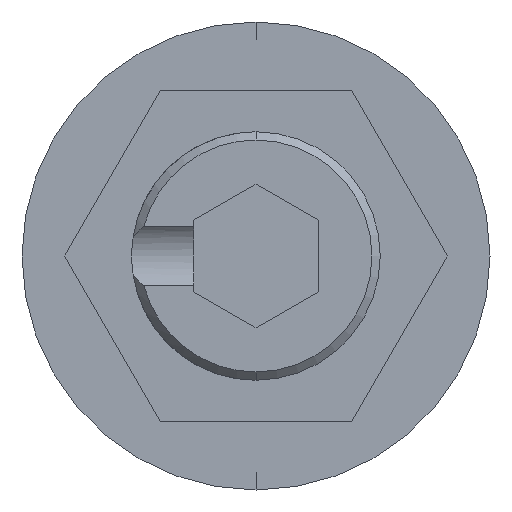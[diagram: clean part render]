
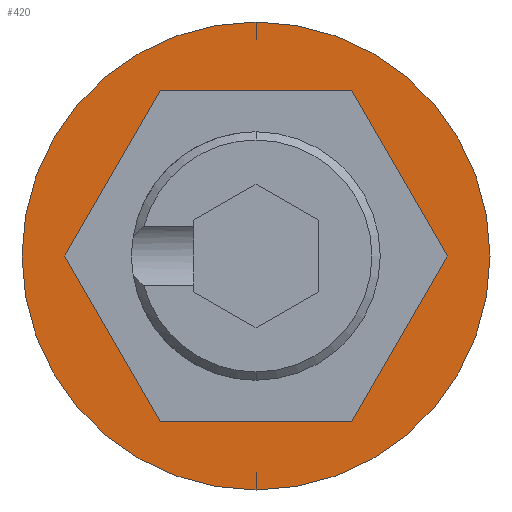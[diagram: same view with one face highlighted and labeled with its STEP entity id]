
A CAD part, front view. The second image highlights one B-rep face of the part: STEP entity #420.
In plain terms, the highlighted planar face has unit normal (0, -1, 0).
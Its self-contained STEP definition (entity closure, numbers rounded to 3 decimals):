
#25 = ORIENTED_EDGE ( 'NONE', *, *, #242, .F. ) ;
#86 = EDGE_CURVE ( 'NONE', #1784, #515, #1893, .T. ) ;
#128 = CARTESIAN_POINT ( 'NONE',  ( -2.309, 0., -4. ) ) ;
#140 = VECTOR ( 'NONE', #1508, 1000. ) ;
#199 = DIRECTION ( 'NONE',  ( 0., -1., 0. ) ) ;
#208 = VERTEX_POINT ( 'NONE', #1943 ) ;
#210 = LINE ( 'NONE', #780, #1839 ) ;
#242 = EDGE_CURVE ( 'NONE', #208, #630, #1299, .T. ) ;
#244 = VECTOR ( 'NONE', #1152, 1000. ) ;
#251 = LINE ( 'NONE', #1096, #140 ) ;
#255 = ORIENTED_EDGE ( 'NONE', *, *, #534, .T. ) ;
#334 = FACE_OUTER_BOUND ( 'NONE', #1014, .T. ) ;
#420 = ADVANCED_FACE ( 'NONE', ( #887, #334 ), #545, .T. ) ;
#426 = LINE ( 'NONE', #876, #244 ) ;
#458 = VERTEX_POINT ( 'NONE', #1995 ) ;
#496 = CIRCLE ( 'NONE', #1996, 5.65 ) ;
#508 = VECTOR ( 'NONE', #1960, 1000. ) ;
#515 = VERTEX_POINT ( 'NONE', #1178 ) ;
#524 = DIRECTION ( 'NONE',  ( 0., -1., 0. ) ) ;
#531 = VECTOR ( 'NONE', #2021, 1000. ) ;
#534 = EDGE_CURVE ( 'NONE', #458, #994, #2005, .T. ) ;
#545 = PLANE ( 'NONE',  #1561 ) ;
#576 = VERTEX_POINT ( 'NONE', #1624 ) ;
#630 = VERTEX_POINT ( 'NONE', #2096 ) ;
#669 = EDGE_CURVE ( 'NONE', #994, #458, #496, .T. ) ;
#675 = DIRECTION ( 'NONE',  ( -0.5, 0., -0.866 ) ) ;
#689 = VECTOR ( 'NONE', #675, 1000. ) ;
#780 = CARTESIAN_POINT ( 'NONE',  ( 2.309, 0., 4. ) ) ;
#787 = VERTEX_POINT ( 'NONE', #128 ) ;
#803 = EDGE_CURVE ( 'NONE', #787, #576, #251, .T. ) ;
#806 = ORIENTED_EDGE ( 'NONE', *, *, #1423, .F. ) ;
#815 = CARTESIAN_POINT ( 'NONE',  ( 0., 0., 0. ) ) ;
#822 = DIRECTION ( 'NONE',  ( 0., -1., 0. ) ) ;
#873 = CARTESIAN_POINT ( 'NONE',  ( -2.309, 0., 4. ) ) ;
#876 = CARTESIAN_POINT ( 'NONE',  ( -4.619, 0., 0. ) ) ;
#887 = FACE_BOUND ( 'NONE', #1134, .T. ) ;
#888 = CARTESIAN_POINT ( 'NONE',  ( -2.309, 0., 4. ) ) ;
#890 = CARTESIAN_POINT ( 'NONE',  ( 2.309, 0., -4. ) ) ;
#941 = DIRECTION ( 'NONE',  ( -1., 0., 0. ) ) ;
#989 = ORIENTED_EDGE ( 'NONE', *, *, #1763, .F. ) ;
#994 = VERTEX_POINT ( 'NONE', #1449 ) ;
#1014 = EDGE_LOOP ( 'NONE', ( #1708, #255 ) ) ;
#1047 = DIRECTION ( 'NONE',  ( 0., 0., -1. ) ) ;
#1096 = CARTESIAN_POINT ( 'NONE',  ( -2.309, 0., -4. ) ) ;
#1124 = EDGE_CURVE ( 'NONE', #630, #1784, #210, .T. ) ;
#1134 = EDGE_LOOP ( 'NONE', ( #1753, #806, #1533, #1968, #25, #989 ) ) ;
#1151 = LINE ( 'NONE', #890, #531 ) ;
#1152 = DIRECTION ( 'NONE',  ( 0.5, 0., -0.866 ) ) ;
#1178 = CARTESIAN_POINT ( 'NONE',  ( -4.619, 0., 0. ) ) ;
#1197 = CARTESIAN_POINT ( 'NONE',  ( 0., 0., 0. ) ) ;
#1299 = LINE ( 'NONE', #1905, #508 ) ;
#1423 = EDGE_CURVE ( 'NONE', #515, #787, #426, .T. ) ;
#1449 = CARTESIAN_POINT ( 'NONE',  ( 0., 0., -5.65 ) ) ;
#1508 = DIRECTION ( 'NONE',  ( 1., 0., 0. ) ) ;
#1510 = CARTESIAN_POINT ( 'NONE',  ( 0., 0., 0. ) ) ;
#1533 = ORIENTED_EDGE ( 'NONE', *, *, #86, .F. ) ;
#1561 = AXIS2_PLACEMENT_3D ( 'NONE', #1510, #199, #1047 ) ;
#1624 = CARTESIAN_POINT ( 'NONE',  ( 2.309, 0., -4. ) ) ;
#1704 = AXIS2_PLACEMENT_3D ( 'NONE', #815, #822, #1948 ) ;
#1708 = ORIENTED_EDGE ( 'NONE', *, *, #669, .T. ) ;
#1753 = ORIENTED_EDGE ( 'NONE', *, *, #803, .F. ) ;
#1763 = EDGE_CURVE ( 'NONE', #576, #208, #1151, .T. ) ;
#1784 = VERTEX_POINT ( 'NONE', #888 ) ;
#1839 = VECTOR ( 'NONE', #941, 1000. ) ;
#1893 = LINE ( 'NONE', #873, #689 ) ;
#1905 = CARTESIAN_POINT ( 'NONE',  ( 4.619, 0., 0. ) ) ;
#1943 = CARTESIAN_POINT ( 'NONE',  ( 4.619, 0., 0. ) ) ;
#1948 = DIRECTION ( 'NONE',  ( 0., 0., -1. ) ) ;
#1960 = DIRECTION ( 'NONE',  ( -0.5, 0., 0.866 ) ) ;
#1968 = ORIENTED_EDGE ( 'NONE', *, *, #1124, .F. ) ;
#1986 = DIRECTION ( 'NONE',  ( 0., 0., -1. ) ) ;
#1995 = CARTESIAN_POINT ( 'NONE',  ( 0., 0., 5.65 ) ) ;
#1996 = AXIS2_PLACEMENT_3D ( 'NONE', #1197, #524, #1986 ) ;
#2005 = CIRCLE ( 'NONE', #1704, 5.65 ) ;
#2021 = DIRECTION ( 'NONE',  ( 0.5, 0., 0.866 ) ) ;
#2096 = CARTESIAN_POINT ( 'NONE',  ( 2.309, 0., 4. ) ) ;
